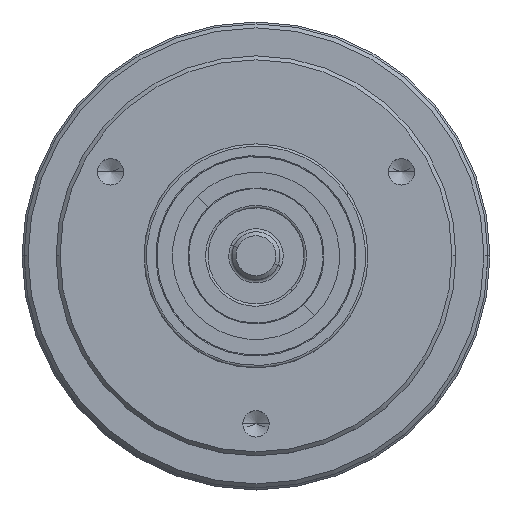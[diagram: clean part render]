
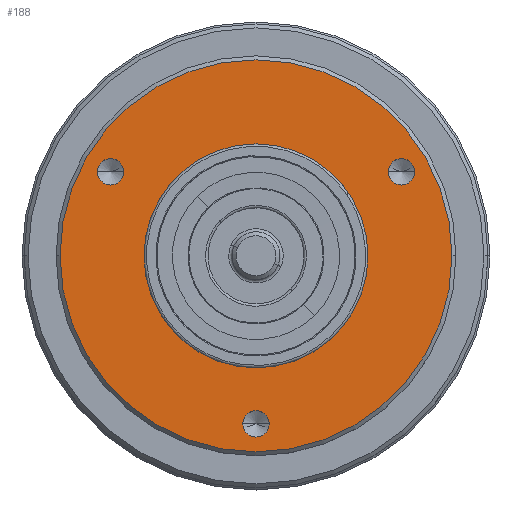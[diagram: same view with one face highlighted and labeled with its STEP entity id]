
A CAD part, top view. The second image highlights one B-rep face of the part: STEP entity #188.
In plain terms, the highlighted planar face has unit normal (0, 0, 1).
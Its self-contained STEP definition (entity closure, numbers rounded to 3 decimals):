
#165 = ORIENTED_EDGE ( 'NONE', *, *, #203, .T. ) ;
#171 = ORIENTED_EDGE ( 'NONE', *, *, #1332, .F. ) ;
#175 = ORIENTED_EDGE ( 'NONE', *, *, #1339, .F. ) ;
#176 = EDGE_CURVE ( 'NONE', #1333, #1221, #2030, .T. ) ;
#178 = ORIENTED_EDGE ( 'NONE', *, *, #176, .F. ) ;
#179 = EDGE_LOOP ( 'NONE', ( #178, #171 ) ) ;
#181 = ORIENTED_EDGE ( 'NONE', *, *, #182, .F. ) ;
#182 = EDGE_CURVE ( 'NONE', #1070, #1067, #1991, .T. ) ;
#188 = ADVANCED_FACE ( 'NONE', ( #1987, #1986, #1985, #1984, #1983 ), #2005, .T. ) ;
#189 = EDGE_LOOP ( 'NONE', ( #227, #285 ) ) ;
#198 = ORIENTED_EDGE ( 'NONE', *, *, #1187, .T. ) ;
#203 = EDGE_CURVE ( 'NONE', #1189, #1188, #2086, .T. ) ;
#225 = EDGE_LOOP ( 'NONE', ( #181, #271 ) ) ;
#227 = ORIENTED_EDGE ( 'NONE', *, *, #228, .F. ) ;
#228 = EDGE_CURVE ( 'NONE', #1264, #1327, #2245, .T. ) ;
#267 = ORIENTED_EDGE ( 'NONE', *, *, #288, .F. ) ;
#271 = ORIENTED_EDGE ( 'NONE', *, *, #1069, .F. ) ;
#285 = ORIENTED_EDGE ( 'NONE', *, *, #1338, .F. ) ;
#286 = EDGE_LOOP ( 'NONE', ( #267, #175 ) ) ;
#288 = EDGE_CURVE ( 'NONE', #1340, #1130, #2278, .T. ) ;
#291 = EDGE_LOOP ( 'NONE', ( #165, #198 ) ) ;
#1067 = VERTEX_POINT ( 'NONE', #4911 ) ;
#1069 = EDGE_CURVE ( 'NONE', #1067, #1070, #4910, .T. ) ;
#1070 = VERTEX_POINT ( 'NONE', #4905 ) ;
#1130 = VERTEX_POINT ( 'NONE', #5009 ) ;
#1187 = EDGE_CURVE ( 'NONE', #1188, #1189, #5305, .T. ) ;
#1188 = VERTEX_POINT ( 'NONE', #5306 ) ;
#1189 = VERTEX_POINT ( 'NONE', #5341 ) ;
#1221 = VERTEX_POINT ( 'NONE', #5235 ) ;
#1264 = VERTEX_POINT ( 'NONE', #5553 ) ;
#1327 = VERTEX_POINT ( 'NONE', #5740 ) ;
#1332 = EDGE_CURVE ( 'NONE', #1221, #1333, #5731, .T. ) ;
#1333 = VERTEX_POINT ( 'NONE', #5726 ) ;
#1338 = EDGE_CURVE ( 'NONE', #1327, #1264, #5802, .T. ) ;
#1339 = EDGE_CURVE ( 'NONE', #1130, #1340, #5907, .T. ) ;
#1340 = VERTEX_POINT ( 'NONE', #5902 ) ;
#1964 = DIRECTION ( 'NONE',  ( -1., 0., 0. ) ) ;
#1983 = FACE_BOUND ( 'NONE', #179, .T. ) ;
#1984 = FACE_BOUND ( 'NONE', #286, .T. ) ;
#1985 = FACE_BOUND ( 'NONE', #225, .T. ) ;
#1986 = FACE_BOUND ( 'NONE', #189, .T. ) ;
#1987 = FACE_OUTER_BOUND ( 'NONE', #291, .T. ) ;
#1988 = DIRECTION ( 'NONE',  ( -1., 0., 0. ) ) ;
#1989 = DIRECTION ( 'NONE',  ( 0., 0., 1. ) ) ;
#1990 = AXIS2_PLACEMENT_3D ( 'NONE', #1997, #1989, #1988 ) ;
#1991 = CIRCLE ( 'NONE', #1990, 1.65 ) ;
#1997 = CARTESIAN_POINT ( 'NONE',  ( -18.187, 10.5, 0. ) ) ;
#2001 = DIRECTION ( 'NONE',  ( 0., 0., 1. ) ) ;
#2002 = CARTESIAN_POINT ( 'NONE',  ( 0., 0., 0. ) ) ;
#2003 = AXIS2_PLACEMENT_3D ( 'NONE', #2002, #2001, #1964 ) ;
#2005 = PLANE ( 'NONE',  #2003 ) ;
#2027 = DIRECTION ( 'NONE',  ( -1., 0., 0. ) ) ;
#2028 = DIRECTION ( 'NONE',  ( 0., 0., 1. ) ) ;
#2029 = AXIS2_PLACEMENT_3D ( 'NONE', #2037, #2028, #2027 ) ;
#2030 = CIRCLE ( 'NONE', #2029, 1.65 ) ;
#2037 = CARTESIAN_POINT ( 'NONE',  ( 0., -21., 0. ) ) ;
#2077 = AXIS2_PLACEMENT_3D ( 'NONE', #2083, #2096, #2090 ) ;
#2083 = CARTESIAN_POINT ( 'NONE',  ( 0., 0., 0. ) ) ;
#2086 = CIRCLE ( 'NONE', #2077, 24.5 ) ;
#2090 = DIRECTION ( 'NONE',  ( -1., 0., 0. ) ) ;
#2096 = DIRECTION ( 'NONE',  ( 0., 0., 1. ) ) ;
#2241 = CARTESIAN_POINT ( 'NONE',  ( 0., 0., 0. ) ) ;
#2243 = DIRECTION ( 'NONE',  ( 0., 0., 1. ) ) ;
#2244 = AXIS2_PLACEMENT_3D ( 'NONE', #2241, #2243, #2268 ) ;
#2245 = CIRCLE ( 'NONE', #2244, 14. ) ;
#2268 = DIRECTION ( 'NONE',  ( -1., 0., 0. ) ) ;
#2278 = CIRCLE ( 'NONE', #2447, 1.65 ) ;
#2444 = DIRECTION ( 'NONE',  ( -1., 0., 0. ) ) ;
#2445 = DIRECTION ( 'NONE',  ( 0., 0., 1. ) ) ;
#2446 = CARTESIAN_POINT ( 'NONE',  ( 18.187, 10.5, 0. ) ) ;
#2447 = AXIS2_PLACEMENT_3D ( 'NONE', #2446, #2445, #2444 ) ;
#4905 = CARTESIAN_POINT ( 'NONE',  ( -19.837, 10.5, 0. ) ) ;
#4906 = DIRECTION ( 'NONE',  ( -1., 0., 0. ) ) ;
#4907 = DIRECTION ( 'NONE',  ( 0., 0., 1. ) ) ;
#4908 = CARTESIAN_POINT ( 'NONE',  ( -18.187, 10.5, 0. ) ) ;
#4909 = AXIS2_PLACEMENT_3D ( 'NONE', #4908, #4907, #4906 ) ;
#4910 = CIRCLE ( 'NONE', #4909, 1.65 ) ;
#4911 = CARTESIAN_POINT ( 'NONE',  ( -16.537, 10.5, 0. ) ) ;
#5009 = CARTESIAN_POINT ( 'NONE',  ( 19.837, 10.5, 0. ) ) ;
#5235 = CARTESIAN_POINT ( 'NONE',  ( 1.65, -21., 0. ) ) ;
#5302 = DIRECTION ( 'NONE',  ( 0., 0., 1. ) ) ;
#5303 = CARTESIAN_POINT ( 'NONE',  ( 0., 0., 0. ) ) ;
#5304 = AXIS2_PLACEMENT_3D ( 'NONE', #5303, #5302, #5342 ) ;
#5305 = CIRCLE ( 'NONE', #5304, 24.5 ) ;
#5306 = CARTESIAN_POINT ( 'NONE',  ( -24.5, 0., 0. ) ) ;
#5341 = CARTESIAN_POINT ( 'NONE',  ( 24.5, 0., 0. ) ) ;
#5342 = DIRECTION ( 'NONE',  ( -1., 0., 0. ) ) ;
#5553 = CARTESIAN_POINT ( 'NONE',  ( -14., 0., 0. ) ) ;
#5726 = CARTESIAN_POINT ( 'NONE',  ( -1.65, -21., 0. ) ) ;
#5727 = DIRECTION ( 'NONE',  ( -1., 0., 0. ) ) ;
#5728 = DIRECTION ( 'NONE',  ( 0., 0., 1. ) ) ;
#5729 = CARTESIAN_POINT ( 'NONE',  ( 0., -21., 0. ) ) ;
#5730 = AXIS2_PLACEMENT_3D ( 'NONE', #5729, #5728, #5727 ) ;
#5731 = CIRCLE ( 'NONE', #5730, 1.65 ) ;
#5740 = CARTESIAN_POINT ( 'NONE',  ( 14., 0., 0. ) ) ;
#5799 = DIRECTION ( 'NONE',  ( -1., 0., 0. ) ) ;
#5800 = DIRECTION ( 'NONE',  ( 0., 0., 1. ) ) ;
#5801 = AXIS2_PLACEMENT_3D ( 'NONE', #5807, #5800, #5799 ) ;
#5802 = CIRCLE ( 'NONE', #5801, 14. ) ;
#5807 = CARTESIAN_POINT ( 'NONE',  ( 0., 0., 0. ) ) ;
#5902 = CARTESIAN_POINT ( 'NONE',  ( 16.537, 10.5, 0. ) ) ;
#5903 = DIRECTION ( 'NONE',  ( -1., 0., 0. ) ) ;
#5904 = DIRECTION ( 'NONE',  ( 0., 0., 1. ) ) ;
#5905 = CARTESIAN_POINT ( 'NONE',  ( 18.187, 10.5, 0. ) ) ;
#5906 = AXIS2_PLACEMENT_3D ( 'NONE', #5905, #5904, #5903 ) ;
#5907 = CIRCLE ( 'NONE', #5906, 1.65 ) ;
